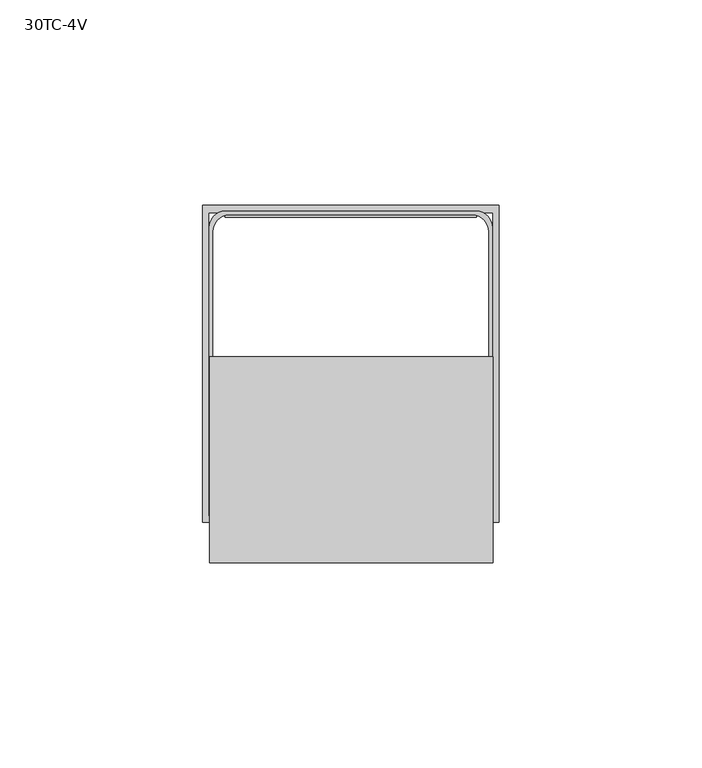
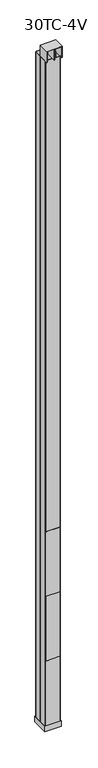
"""IFC4 building model written with IfcOpenShell, lengths in millimetres: proxy geometry, Vertical_Drop_Pole-Wiremold-Blank_Steel_Pole_Two_Compartment : 30TC-4V."""

import ifcopenshell
import ifcopenshell.guid

model = None  # the IFC model being written
_history = None  # IfcOwnerHistory: only IFC2X3 demands one
_inside = {}  # id of a spatial element -> (the spatial element, [elements in it])
_under = {}  # id of a project, library or spatial element -> (it, [spatial elements below it])
_declared = {}  # id of a project -> (the project, [libraries it declares])
_typed = {}  # id of a type object -> (the type object, [elements of that type])
_made_of = {}  # id of a material, layer set ... -> (it, [elements and type objects made of it])


def new_model(schema):
    """Start an empty IFC model of exactly this schema.

    Asked for "IFC4X3", IfcOpenShell would pick the latest addendum, in which some entities
    have other attributes; the version numbers below select the first issue.
    IFC2X3 requires an IfcOwnerHistory on every rooted entity: one is made here for all.
    """
    global model, _history
    if schema == "IFC4X3":
        model = ifcopenshell.file(schema_version=(4, 3, 0, 0))
    else:
        model = ifcopenshell.file(schema=schema)
    _inside.clear()
    _under.clear()
    _declared.clear()
    _typed.clear()
    _made_of.clear()
    _history = None
    if model.schema == "IFC2X3":
        org = make("IfcOrganization", Name="unknown")
        user = make(
            "IfcPersonAndOrganization",
            ThePerson=make("IfcPerson", FamilyName="unknown"),
            TheOrganization=org,
        )
        app = make(
            "IfcApplication",
            ApplicationDeveloper=org,
            Version="unknown",
            ApplicationFullName="unknown",
            ApplicationIdentifier="unknown",
        )
        _history = make(
            "IfcOwnerHistory",
            OwningUser=user,
            OwningApplication=app,
            ChangeAction="ADDED",
            CreationDate=0,
        )
    return model


def make(cls, **values):
    """One entity of the class cls with the attributes given. An attribute that is None is left unset."""
    return model.create_entity(
        cls, **{name: value for name, value in values.items() if value is not None}
    )


def rooted(cls, **values):
    """An entity with a GlobalId (a new one), such as an element, a storey or a relation."""
    return make(cls, GlobalId=ifcopenshell.guid.new(), OwnerHistory=_history, **values)


def si_unit(unit_type, name, prefix=None):
    """IfcSIUnit, for example si_unit("LENGTHUNIT", "METRE", prefix="MILLI")."""
    return make("IfcSIUnit", UnitType=unit_type, Prefix=prefix, Name=name)


def assignment(units):
    """IfcUnitAssignment: the units of a project."""
    return None if units is None else make("IfcUnitAssignment", Units=units)


def point(xyz):
    """IfcCartesianPoint."""
    return None if xyz is None else make("IfcCartesianPoint", Coordinates=xyz)


def direction(xyz):
    """IfcDirection."""
    return None if xyz is None else make("IfcDirection", DirectionRatios=xyz)


def frame(location, z_axis=None, x_axis=None):
    """IfcAxis2Placement3D, a coordinate frame: its origin and axes. An axis left out is left unset."""
    return make(
        "IfcAxis2Placement3D",
        Location=point(location),
        Axis=direction(z_axis),
        RefDirection=direction(x_axis),
    )


def frame_2d(location, x_axis=None):
    """IfcAxis2Placement2D, a coordinate frame in the plane: its origin and x axis."""
    return make(
        "IfcAxis2Placement2D", Location=point(location), RefDirection=direction(x_axis)
    )


def origin():
    """The frame at (0, 0, 0) with its axes left unset."""
    return frame((0.0, 0.0, 0.0))


def origin_with_axes():
    """The frame at (0, 0, 0) with the z axis (0, 0, 1) and the x axis (1, 0, 0) written out."""
    return frame((0.0, 0.0, 0.0), z_axis=(0.0, 0.0, 1.0), x_axis=(1.0, 0.0, 0.0))


def place(relative_to, where):
    """IfcLocalPlacement: puts the frame where relative to a parent placement (None: the world)."""
    return make(
        "IfcLocalPlacement", PlacementRelTo=relative_to, RelativePlacement=where
    )


def context(
    kind, dimensions, precision=None, world=None, true_north=None, identifier=None
):
    """IfcGeometricRepresentationContext, for example the 3D "Model" context."""
    return make(
        "IfcGeometricRepresentationContext",
        ContextIdentifier=identifier,
        ContextType=kind,
        CoordinateSpaceDimension=dimensions,
        Precision=precision,
        WorldCoordinateSystem=world,
        TrueNorth=true_north,
    )


def project(units=None, contexts=None):
    """IfcProject with its units and contexts."""
    return rooted(
        "IfcProject",
        Name="project",
        RepresentationContexts=contexts,
        UnitsInContext=assignment(units),
    )


def spatial(cls, under=None, at=None, **own):
    """A site, building, storey or space (cls), placed at a placement, below another one or the project."""
    s = rooted(cls, ObjectPlacement=at, **own)
    if under is not None:
        _under.setdefault(under.id(), (under, []))[1].append(s)
    return s


def polyline(points):
    """IfcPolyline through the points."""
    return make("IfcPolyline", Points=[point(p) for p in points])


def circle_curve(where, radius):
    """IfcCircle in the frame where."""
    return make("IfcCircle", Position=where, Radius=radius)


def trimmed(basis, trim1, trim2, sense, master):
    """IfcTrimmedCurve: the piece of a basis curve between two trims."""
    return make(
        "IfcTrimmedCurve",
        BasisCurve=basis,
        Trim1=trim1,
        Trim2=trim2,
        SenseAgreement=sense,
        MasterRepresentation=master,
    )


def segment(curve, same_sense, transition):
    """IfcCompositeCurveSegment."""
    return make(
        "IfcCompositeCurveSegment",
        Transition=transition,
        SameSense=same_sense,
        ParentCurve=curve,
    )


def composite_curve(segments, self_intersect=None):
    """IfcCompositeCurve: segments joined end to end."""
    return make("IfcCompositeCurve", Segments=segments, SelfIntersect=self_intersect)


def outline(outer, holes=None, kind="AREA"):
    """IfcArbitraryClosedProfileDef: a profile drawn as a closed curve; with holes, ...WithVoids."""
    if holes is None:
        return make("IfcArbitraryClosedProfileDef", ProfileType=kind, OuterCurve=outer)
    return make(
        "IfcArbitraryProfileDefWithVoids",
        ProfileType=kind,
        OuterCurve=outer,
        InnerCurves=holes,
    )


def extrude(swept, where, along, depth):
    """IfcExtrudedAreaSolid: the profile swept, set in the frame where, extruded along a direction by depth."""
    return make(
        "IfcExtrudedAreaSolid",
        SweptArea=swept,
        Position=where,
        ExtrudedDirection=direction(along),
        Depth=depth,
    )


def shape(context_of_items, identifier, shape_type, items):
    """IfcShapeRepresentation: the items that make up one representation, for example the "Body"."""
    return make(
        "IfcShapeRepresentation",
        ContextOfItems=context_of_items,
        RepresentationIdentifier=identifier,
        RepresentationType=shape_type,
        Items=items,
    )


def source(mapping_origin, context_of_items, identifier, shape_type, items):
    """IfcRepresentationMap: a shape defined once, which mapped items show again and again."""
    return make(
        "IfcRepresentationMap",
        MappingOrigin=mapping_origin,
        MappedRepresentation=shape(context_of_items, identifier, shape_type, items),
    )


def transform(
    local_origin,
    x_axis=None,
    y_axis=None,
    z_axis=None,
    scale=None,
    scale2=None,
    scale3=None,
    uniform=True,
):
    """IfcCartesianTransformationOperator3D, or its non-uniform kind. x_axis, y_axis, z_axis: its Axis1, 2, 3."""
    if uniform:
        return make(
            "IfcCartesianTransformationOperator3D",
            Axis1=direction(x_axis),
            Axis2=direction(y_axis),
            LocalOrigin=point(local_origin),
            Scale=scale,
            Axis3=direction(z_axis),
        )
    return make(
        "IfcCartesianTransformationOperator3DnonUniform",
        Axis1=direction(x_axis),
        Axis2=direction(y_axis),
        LocalOrigin=point(local_origin),
        Scale=scale,
        Axis3=direction(z_axis),
        Scale2=scale2,
        Scale3=scale3,
    )


def mapped(mapping_source, mapping_target):
    """IfcMappedItem: shows the shape of a source again, moved by a transform."""
    return make(
        "IfcMappedItem", MappingSource=mapping_source, MappingTarget=mapping_target
    )


def made_of(thing, what):
    """Note that an element or type object is made of a material, layer set ...; save() writes the relation."""
    if what is not None:
        _made_of.setdefault(what.id(), (what, []))[1].append(thing)
    return thing


def element(
    cls,
    number,
    at=None,
    inside=None,
    cuts=None,
    type_object=None,
    material=None,
    context=None,
    identifier="Body",
    shape_type=None,
    held_by="IfcProductDefinitionShape",
    body=None,
    shapes=None,
    **own,
):
    """One element of the class cls, such as IfcWall. Its Tag is "e" and its number.

    at: its placement. inside: the storey or other place that contains it. cuts: it is an
    opening in that element (IfcRelVoidsElement). A single representation is given by context,
    identifier, shape_type and body (its items); several are given by shapes. held_by: the class
    of the entity that holds the representations. save() writes the other relations.
    """
    e = rooted(cls, Tag="e%d" % number, ObjectPlacement=at, **own)
    if body is not None:
        shapes = [shape(context, identifier, shape_type, body)]
    if shapes is not None:
        e.Representation = make(held_by, Representations=shapes)
    if inside is not None:
        _inside.setdefault(inside.id(), (inside, []))[1].append(e)
    if cuts is not None:
        rooted(
            "IfcRelVoidsElement", RelatingBuildingElement=cuts, RelatedOpeningElement=e
        )
    if type_object is not None:
        _typed.setdefault(type_object.id(), (type_object, []))[1].append(e)
    return made_of(e, material)


def aggregate(whole, parts):
    """IfcRelAggregates: a whole, such as a stair, and the parts it consists of."""
    return rooted("IfcRelAggregates", RelatingObject=whole, RelatedObjects=parts)


def save(model, path):
    """Write the relations noted so far, then the file.

    IfcRelAggregates (storeys below a building ...), IfcRelContainedInSpatialStructure (elements
    in a storey), IfcRelDefinesByType, IfcRelAssociatesMaterial and IfcRelDeclares: one each for
    every whole, place, type object, material and project.
    """
    for whole, parts in _under.values():
        aggregate(whole, parts)
    for where, things in _inside.values():
        rooted(
            "IfcRelContainedInSpatialStructure",
            RelatedElements=things,
            RelatingStructure=where,
        )
    for kind, things in _typed.values():
        rooted("IfcRelDefinesByType", RelatedObjects=things, RelatingType=kind)
    for what, things in _made_of.values():
        rooted("IfcRelAssociatesMaterial", RelatedObjects=things, RelatingMaterial=what)
    for by, libraries in _declared.values():
        rooted("IfcRelDeclares", RelatingContext=by, RelatedDefinitions=libraries)
    model.write(path)


def proxy_30tc_4v_ed44cb3a(model_context):
    return source(origin(), model_context, "Body", "SweptSolid", [
        extrude(outline(polyline([(30.9760028, 3.0842362), (-31.0239972, 3.0842362), (-31.0239972, 4.0842362), (30.9760028, 4.0842362), (30.9760028, 3.0842362)])), frame((0.0, 0.0, 638.175), z_axis=(0.0, 0.0, 1.0), x_axis=(1.0, 0.0, 0.0)), (0.0, 0.0, 1.0), 306.3875),
        extrude(outline(polyline([(30.9760028, 3.0842362), (-31.0239972, 3.0842362), (-31.0239972, 4.0842362), (30.9760028, 4.0842362), (30.9760028, 3.0842362)])), frame((0.0, 0.0, 25.4), z_axis=(0.0, 0.0, 1.0), x_axis=(1.0, 0.0, 0.0)), (0.0, 0.0, 1.0), 306.3875),
        extrude(outline(polyline([(-31.0261847, 77.5967362), (30.9738153, 77.5967362), (30.9738153, 76.5967362), (-31.0261847, 76.5967362), (-31.0261847, 77.5967362)])), frame((0.0, 0.0, 25.4), z_axis=(0.0, 0.0, 1.0), x_axis=(1.0, 0.0, 0.0)), (0.0, 0.0, 1.0), 306.3875),
        extrude(outline(polyline([(-0.8191406, -9.1282089), (-0.8191406, 41.6717911), (0.9667969, 41.6717911), (0.9667969, -9.1282089), (-0.8191406, -9.1282089)])), frame((0.0, 0.0, 3175.0), z_axis=(0.0, 0.0, 1.0), x_axis=(1.0, 0.0, 0.0)), (0.0, 0.0, 1.0), 50.8),
        extrude(outline(polyline([(-23.8231255, 40.0842911), (23.9707817, 40.0842911), (23.9707817, 38.4967911), (-23.8231255, 38.4967911), (-23.8231255, 40.0842911)])), frame((0.0, 0.0, 3148.0125), z_axis=(0.0, 0.0, 1.0), x_axis=(1.0, 0.0, 0.0)), (0.0, 0.0, 1.0), 26.9875),
        extrude(outline(polyline([(-33.2636719, 41.6717911), (33.4113281, 41.6717911), (33.4113281, 40.0842911), (-33.2636719, 40.0842911), (-33.2636719, 41.6717911)])), frame((0.0, 0.0, 3175.0), z_axis=(0.0, 0.0, 1.0), x_axis=(1.0, 0.0, 0.0)), (0.0, 0.0, 1.0), 50.8),
        extrude(outline(polyline([(-34.8511719, -9.1282089), (-34.8511719, 41.6717911), (-33.2636719, 41.6717911), (-33.2636719, -9.1282089), (-34.8511719, -9.1282089)])), frame((0.0, 0.0, 3175.0), z_axis=(0.0, 0.0, 1.0), x_axis=(1.0, 0.0, 0.0)), (0.0, 0.0, 1.0), 50.8),
        extrude(outline(polyline([(33.4113281, -9.1282089), (33.4113281, 41.6717911), (34.9988281, 41.6717911), (34.9988281, -9.1282089), (33.4113281, -9.1282089)])), frame((0.0, 0.0, 3175.0), z_axis=(0.0, 0.0, 1.0), x_axis=(1.0, 0.0, 0.0)), (0.0, 0.0, 1.0), 50.8),
        extrude(outline(polyline([(-34.8511719, -9.1282089), (-34.8511719, 41.6717911), (34.9988281, 41.6717911), (34.9988281, -9.1282089), (-34.8511719, -9.1282089)])), frame((0.0, 0.0, 3225.8), z_axis=(0.0, 0.0, 1.0), x_axis=(1.0, 0.0, 0.0)), (0.0, 0.0, 1.0), 1.5875),
        extrude(outline(polyline([(-36.5125, 1.4967362), (-36.5125, 79.5967362), (36.5125, 79.5967362), (36.5125, 1.4967362), (-36.5125, 1.4967362)]), holes=[polyline([(34.925, 77.5967362), (-34.925, 77.5967362), (-34.925, 3.0842362), (34.925, 3.0842362), (34.925, 77.5967362)])]), origin_with_axes(), (0.0, 0.0, 1.0), 25.4),
        extrude(outline(composite_curve([segment(polyline([(-34.925, 39.4967362), (-34.925, 73.5967362)]), True, "CONTINUOUS"), segment(trimmed(circle_curve(frame_2d((-30.925, 73.5967362)), 4.0), [point((-34.925, 73.5967362))], [point((-30.925, 77.5967362))], False, "CARTESIAN"), True, "CONTINUOUS"), segment(polyline([(-30.925, 77.5967362), (30.925, 77.5967362)]), True, "CONTINUOUS"), segment(trimmed(circle_curve(frame_2d((30.925, 73.5967362)), 4.0), [point((30.925, 77.5967362))], [point((34.925, 73.5967362))], False, "CARTESIAN"), True, "CONTINUOUS"), segment(polyline([(34.925, 73.5967362), (34.925, 39.4967362), (-34.925, 39.4967362)]), True, "CONTINUOUS")], self_intersect=False), holes=[composite_curve([segment(trimmed(circle_curve(frame_2d((29.925, 72.5967362)), 4.0), [point((33.925, 72.5967362))], [point((29.925, 76.5967362))], True, "CARTESIAN"), True, "CONTINUOUS"), segment(polyline([(29.925, 76.5967362), (-29.925, 76.5967362)]), True, "CONTINUOUS"), segment(trimmed(circle_curve(frame_2d((-29.925, 72.5967362)), 4.0), [point((-29.925, 76.5967362))], [point((-33.925, 72.5967362))], True, "CARTESIAN"), True, "CONTINUOUS"), segment(polyline([(-33.925, 72.5967362), (-33.925, 40.4967362), (33.925, 40.4967362), (33.925, 72.5967362)]), True, "CONTINUOUS")], self_intersect=False)]), origin_with_axes(), (0.0, 0.0, 1.0), 3175.0),
        extrude(outline(composite_curve([segment(polyline([(34.925, 39.4967362), (34.925, 7.0842362)]), True, "CONTINUOUS"), segment(trimmed(circle_curve(frame_2d((30.925, 7.0842362)), 4.0), [point((34.925, 7.0842362))], [point((30.925, 3.0842362))], False, "CARTESIAN"), True, "CONTINUOUS"), segment(polyline([(30.925, 3.0842362), (-30.925, 3.0842362)]), True, "CONTINUOUS"), segment(trimmed(circle_curve(frame_2d((-30.925, 7.0842362)), 4.0), [point((-30.925, 3.0842362))], [point((-34.925, 7.0842362))], False, "CARTESIAN"), True, "CONTINUOUS"), segment(polyline([(-34.925, 7.0842362), (-34.925, 39.4967362), (34.925, 39.4967362)]), True, "CONTINUOUS")], self_intersect=False), holes=[composite_curve([segment(trimmed(circle_curve(frame_2d((-29.925, 8.0842362)), 4.0), [point((-33.925, 8.0842362))], [point((-29.925, 4.0842362))], True, "CARTESIAN"), True, "CONTINUOUS"), segment(polyline([(-29.925, 4.0842362), (29.925, 4.0842362)]), True, "CONTINUOUS"), segment(trimmed(circle_curve(frame_2d((29.925, 8.0842362)), 4.0), [point((29.925, 4.0842362))], [point((33.925, 8.0842362))], True, "CARTESIAN"), True, "CONTINUOUS"), segment(polyline([(33.925, 8.0842362), (33.925, 38.4967362), (-33.925, 38.4967362), (-33.925, 8.0842362)]), True, "CONTINUOUS")], self_intersect=False)]), origin_with_axes(), (0.0, 0.0, 1.0), 3175.0),
    ])


if __name__ == "__main__":
    model = new_model("IFC4")
    model_context = context("Model", 3, world=origin())
    ifc_project = project(units=[si_unit("LENGTHUNIT", "METRE", prefix="MILLI")], contexts=[model_context])
    site = spatial("IfcSite", under=ifc_project)
    building = spatial("IfcBuilding", under=site)
    placement = place(None, origin())
    proxy_30tc_4v_shape = proxy_30tc_4v_ed44cb3a(model_context)
    element("IfcBuildingElementProxy", 1, Name="Vertical_Drop_Pole-Wiremold-Blank_Steel_Pole_Two_Compartment : 30TC-4V", ObjectType="Vertical_Drop_Pole-Wiremold-Blank_Steel_Pole_Two_Compartment : 30TC-4V", at=placement, inside=building, context=model_context, shape_type="MappedRepresentation", body=[
        mapped(proxy_30tc_4v_shape, transform((0.0, 0.0, 0.0), x_axis=(1.0, 0.0, 0.0), y_axis=(0.0, 1.0, 0.0), z_axis=(0.0, 0.0, 1.0))),
    ])
    save(model, "model.ifc")
